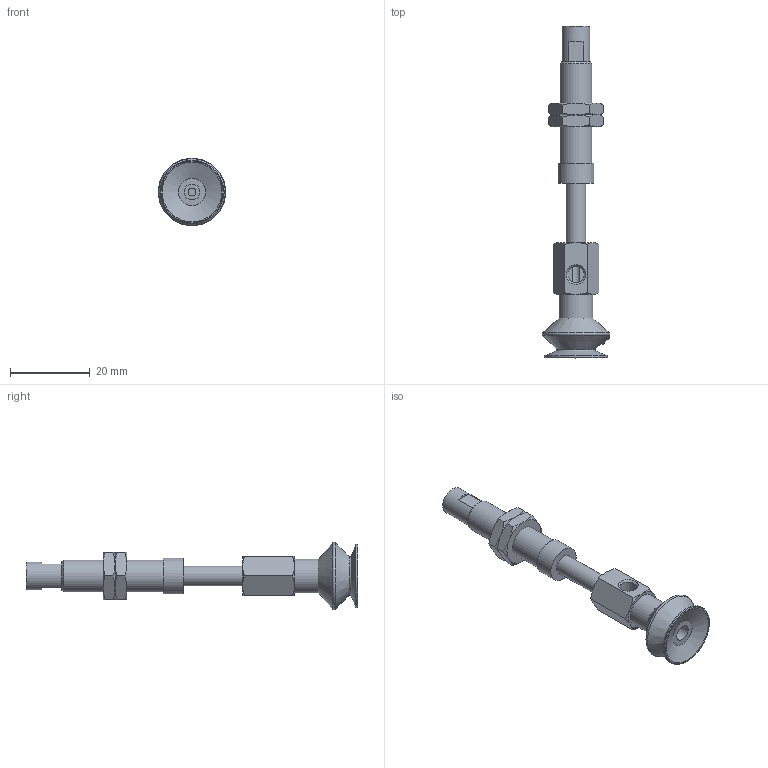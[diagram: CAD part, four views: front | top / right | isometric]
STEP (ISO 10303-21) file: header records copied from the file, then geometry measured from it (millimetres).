
FILE_DESCRIPTION(('STEP AP203'),'1');
FILE_NAME('.stp','2025-04-02T00:23:33',(' '),(' '),'Spatial InterOp 3D',' ',' ');
FILE_SCHEMA(('CONFIG_CONTROL_DESIGN'));
Length unit declared in the file: millimetre
Products named in the file (8): BNABPBYS-15A-15-※; CONNECTOR-15A-15-PB; Nut-15A-S-PB; NAPBTS-15A-15--F; NAPBTS-15A-15--M; BPBG-15A-※; __27; BPBG-15A
Assembly tree (8 placements, depth 3):
  BNABPBYS-15A-15-※
    CONNECTOR-15A-15-PB
    Nut-15A-S-PB  x2
    NAPBTS-15A-15--F
    NAPBTS-15A-15--M
    BPBG-15A-※
      __27
      BPBG-15A
Bounding box: 17 x 83.5 x 17 mm (x, y, z)
Volume: 5029.1 mm3; surface area: 5545.3 mm2
Topology: 7 solids, 7 shells, 144 faces, 308 edges, 188 vertices
Faces by surface type: cone 55, plane 52, cylinder 18, torus 11, bspline 8
Full cylindrical faces by diameter (mm): 2 x1, 4 x3, 4.134 x2, 5 x3, 6 x2, 7 x1, 7.188 x2, 8 x1, 8.5 x1, 9 x1, 16 x1
Entity records: 4725 total; most frequent: CARTESIAN_POINT 2015, DIRECTION 471, ORIENTED_EDGE 414, AXIS2_PLACEMENT_3D 212, EDGE_CURVE 207, EDGE_LOOP 181, FACE_OUTER_BOUND 149, VERTEX_POINT 148
